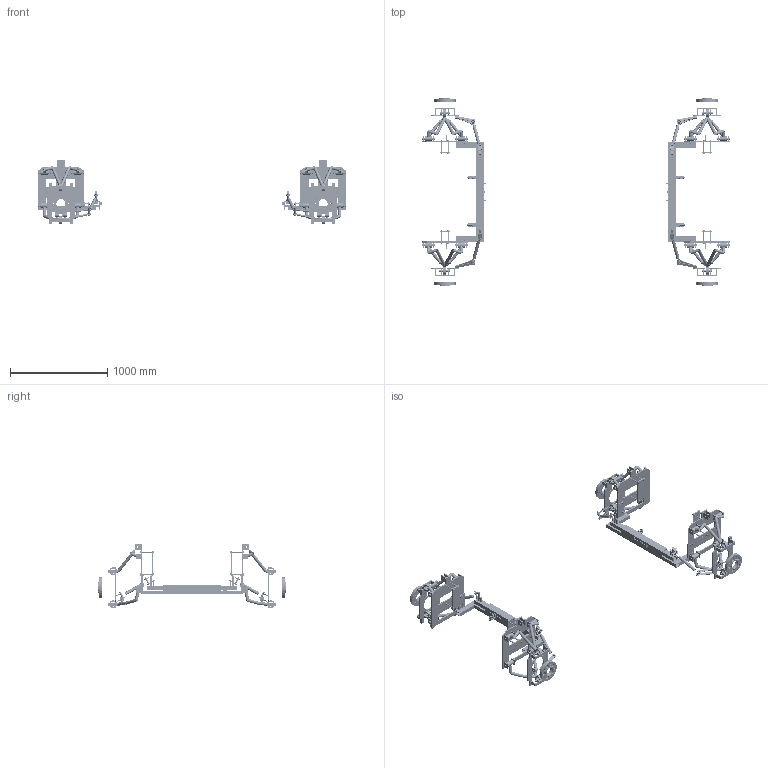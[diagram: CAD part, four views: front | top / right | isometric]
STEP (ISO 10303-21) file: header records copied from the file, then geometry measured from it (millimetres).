
FILE_DESCRIPTION(('Open CASCADE Model'),'2;1');
FILE_NAME('Open CASCADE Shape Model','2026-10-09T07:13:09',('Author'),( 'Open CASCADE'),'Open CASCADE STEP processor 7.8','Open CASCADE 7.8' ,'Unknown');
FILE_SCHEMA(('AUTOMOTIVE_DESIGN { 1 0 10303 214 1 1 1 1 }'));
Length unit declared in the file: millimetre
Products named in the file (77): original_steering_C03_R03; rear_right_clamp; rear_right_inner_backing_C02_R01; rear_right_stationary_hardware_C02_R01; rear_right_upper_wishbone_C03_R06; rear_right_lower_wishbone_C03_R04; rear_right_outer_pins_left_C03_R01; rear_right_upright; rear_right_retainer_upper; rear_right_retainer_lower; rear_right_wheel_adapter; rear_right_tie_tube_C03_R02; rear_right_tie_insert_RH_C03_R02; rear_right_tie_insert_LH_C03_R02; rear_right_inner_tie_pin; rear_right_outer_tie_pin; rear_left_clamp; rear_left_inner_backing_C02_R01; rear_left_stationary_hardware_C02_R01; rear_left_upper_wishbone_C03_R06; rear_left_lower_wishbone_C03_R04; rear_left_outer_pins_left_C03_R01; rear_left_upright; rear_left_retainer_upper; rear_left_retainer_lower; rear_left_wheel_adapter; rear_left_tie_tube_C03_R02; rear_left_tie_insert_RH_C03_R02; rear_left_tie_insert_LH_C03_R02; rear_left_inner_tie_pin; rear_left_outer_tie_pin; front_right_clamp; front_right_inner_backing_C02_R01; front_right_stationary_hardware_C02_R01; front_right_upper_wishbone_C03_R06; front_right_lower_wishbone_C03_R04; front_right_outer_pins_left_C03_R01; front_right_upright; front_right_retainer_upper; front_right_retainer_lower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
Assembly tree (76 placements, depth 2):
  original_steering_C03_R03
    rear_right_clamp
    rear_right_inner_backing_C02_R01
    rear_right_stationary_hardware_C02_R01
    rear_right_upper_wishbone_C03_R06
    rear_right_lower_wishbone_C03_R04
    rear_right_outer_pins_left_C03_R01
    rear_right_upright
    rear_right_retainer_upper
    rear_right_retainer_lower
    rear_right_wheel_adapter
    rear_right_tie_tube_C03_R02
    rear_right_tie_insert_RH_C03_R02
    rear_right_tie_insert_LH_C03_R02
    rear_right_inner_tie_pin
    rear_right_outer_tie_pin
    rear_left_clamp
    rear_left_inner_backing_C02_R01
    rear_left_stationary_hardware_C02_R01
    rear_left_upper_wishbone_C03_R06
    rear_left_lower_wishbone_C03_R04
    rear_left_outer_pins_left_C03_R01
    rear_left_upright
    rear_left_retainer_upper
    rear_left_retainer_lower
    rear_left_wheel_adapter
    rear_left_tie_tube_C03_R02
    rear_left_tie_insert_RH_C03_R02
    rear_left_tie_insert_LH_C03_R02
    rear_left_inner_tie_pin
    rear_left_outer_tie_pin
    front_right_clamp
    front_right_inner_backing_C02_R01
    front_right_stationary_hardware_C02_R01
    front_right_upper_wishbone_C03_R06
    front_right_lower_wishbone_C03_R04
    front_right_outer_pins_left_C03_R01
    front_right_upright
    front_right_retainer_upper
    front_right_retainer_lower
    front_right_wheel_adapter
    front_right_tie_tube_C03_R02
    front_right_tie_insert_RH_C03_R02
    front_right_tie_insert_LH_C03_R02
    front_right_inner_tie_pin
    front_right_outer_tie_pin
    front_left_clamp
    front_left_inner_backing_C02_R01
    front_left_stationary_hardware_C02_R01
    front_left_upper_wishbone_C03_R06
    front_left_lower_wishbone_C03_R04
    front_left_outer_pins_left_C03_R01
    front_left_upright
    front_left_retainer_upper
    front_left_retainer_lower
    front_left_wheel_adapter
    front_left_tie_tube_C03_R02
    front_left_tie_insert_RH_C03_R02
    front_left_tie_insert_LH_C03_R02
    front_left_inner_tie_pin
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Bounding box: 3182 x 1936 x 660 mm (x, y, z)
Volume: 30956267.5 mm3; surface area: 8898644.1 mm2
Topology: 202 solids, 210 shells, 3548 faces, 8496 edges, 5456 vertices
Faces by surface type: plane 2296, cylinder 1244, cone 8
Full cylindrical faces by diameter (mm): 3.2 x20, 4 x16, 4.2 x32, 5.5 x32, 8.5 x24, 10 x32, 11 x64, 12 x36, 12.5 x8, 13 x48, 14.5 x36, 15.875 x8, 16.3 x16, 17 x20, 17.462 x8, 19 x24, 19.05 x8, 19.5 x16, 20 x48, 20.5 x32, 22 x4, 24 x28, 25 x32, 26 x56, 28 x8, 32 x84, 35 x16, 36 x20, 40 x8, 50 x32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
Entity records: 317578 total; most frequent: CARTESIAN_POINT 143527, DIRECTION 32188, LINE 17650, VECTOR 17650, ORIENTED_EDGE 17000, PCURVE 16992, DEFINITIONAL_REPRESENTATION 16992, EDGE_CURVE 8496
